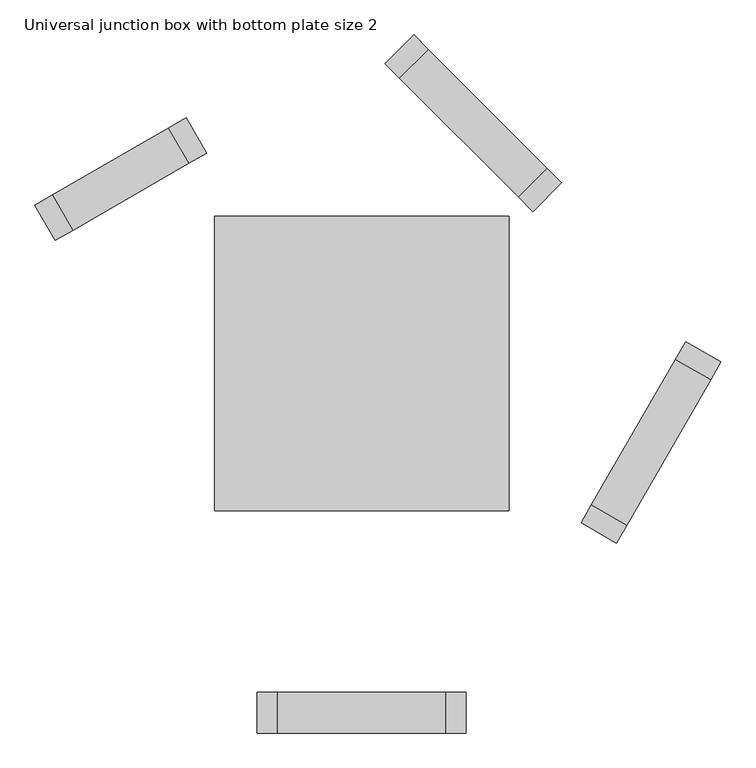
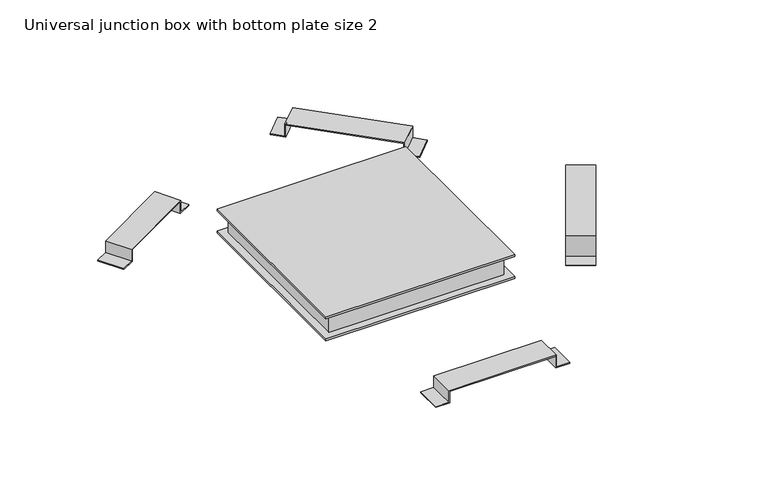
"""IFC4 building model written with IfcOpenShell, lengths in millimetres: cable carrier fitting geometry, Electrical-Installations_Hager_Universal-Junction-Box-With-Bottom-Plate-Size-2-Angled : Universal junction box with bottom plate size 2."""

import ifcopenshell
import ifcopenshell.guid

model = None  # the IFC model being written
_history = None  # IfcOwnerHistory: only IFC2X3 demands one
_inside = {}  # id of a spatial element -> (the spatial element, [elements in it])
_under = {}  # id of a project, library or spatial element -> (it, [spatial elements below it])
_declared = {}  # id of a project -> (the project, [libraries it declares])
_typed = {}  # id of a type object -> (the type object, [elements of that type])
_made_of = {}  # id of a material, layer set ... -> (it, [elements and type objects made of it])


def new_model(schema):
    """Start an empty IFC model of exactly this schema.

    Asked for "IFC4X3", IfcOpenShell would pick the latest addendum, in which some entities
    have other attributes; the version numbers below select the first issue.
    IFC2X3 requires an IfcOwnerHistory on every rooted entity: one is made here for all.
    """
    global model, _history
    if schema == "IFC4X3":
        model = ifcopenshell.file(schema_version=(4, 3, 0, 0))
    else:
        model = ifcopenshell.file(schema=schema)
    _inside.clear()
    _under.clear()
    _declared.clear()
    _typed.clear()
    _made_of.clear()
    _history = None
    if model.schema == "IFC2X3":
        org = make("IfcOrganization", Name="unknown")
        user = make(
            "IfcPersonAndOrganization",
            ThePerson=make("IfcPerson", FamilyName="unknown"),
            TheOrganization=org,
        )
        app = make(
            "IfcApplication",
            ApplicationDeveloper=org,
            Version="unknown",
            ApplicationFullName="unknown",
            ApplicationIdentifier="unknown",
        )
        _history = make(
            "IfcOwnerHistory",
            OwningUser=user,
            OwningApplication=app,
            ChangeAction="ADDED",
            CreationDate=0,
        )
    return model


def make(cls, **values):
    """One entity of the class cls with the attributes given. An attribute that is None is left unset."""
    return model.create_entity(
        cls, **{name: value for name, value in values.items() if value is not None}
    )


def rooted(cls, **values):
    """An entity with a GlobalId (a new one), such as an element, a storey or a relation."""
    return make(cls, GlobalId=ifcopenshell.guid.new(), OwnerHistory=_history, **values)


def si_unit(unit_type, name, prefix=None):
    """IfcSIUnit, for example si_unit("LENGTHUNIT", "METRE", prefix="MILLI")."""
    return make("IfcSIUnit", UnitType=unit_type, Prefix=prefix, Name=name)


def assignment(units):
    """IfcUnitAssignment: the units of a project."""
    return None if units is None else make("IfcUnitAssignment", Units=units)


def point(xyz):
    """IfcCartesianPoint."""
    return None if xyz is None else make("IfcCartesianPoint", Coordinates=xyz)


def direction(xyz):
    """IfcDirection."""
    return None if xyz is None else make("IfcDirection", DirectionRatios=xyz)


def frame(location, z_axis=None, x_axis=None):
    """IfcAxis2Placement3D, a coordinate frame: its origin and axes. An axis left out is left unset."""
    return make(
        "IfcAxis2Placement3D",
        Location=point(location),
        Axis=direction(z_axis),
        RefDirection=direction(x_axis),
    )


def origin():
    """The frame at (0, 0, 0) with its axes left unset."""
    return frame((0.0, 0.0, 0.0))


def place(relative_to, where):
    """IfcLocalPlacement: puts the frame where relative to a parent placement (None: the world)."""
    return make(
        "IfcLocalPlacement", PlacementRelTo=relative_to, RelativePlacement=where
    )


def context(
    kind, dimensions, precision=None, world=None, true_north=None, identifier=None
):
    """IfcGeometricRepresentationContext, for example the 3D "Model" context."""
    return make(
        "IfcGeometricRepresentationContext",
        ContextIdentifier=identifier,
        ContextType=kind,
        CoordinateSpaceDimension=dimensions,
        Precision=precision,
        WorldCoordinateSystem=world,
        TrueNorth=true_north,
    )


def project(units=None, contexts=None):
    """IfcProject with its units and contexts."""
    return rooted(
        "IfcProject",
        Name="project",
        RepresentationContexts=contexts,
        UnitsInContext=assignment(units),
    )


def spatial(cls, under=None, at=None, **own):
    """A site, building, storey or space (cls), placed at a placement, below another one or the project."""
    s = rooted(cls, ObjectPlacement=at, **own)
    if under is not None:
        _under.setdefault(under.id(), (under, []))[1].append(s)
    return s


def polyline(points):
    """IfcPolyline through the points."""
    return make("IfcPolyline", Points=[point(p) for p in points])


def outline(outer, holes=None, kind="AREA"):
    """IfcArbitraryClosedProfileDef: a profile drawn as a closed curve; with holes, ...WithVoids."""
    if holes is None:
        return make("IfcArbitraryClosedProfileDef", ProfileType=kind, OuterCurve=outer)
    return make(
        "IfcArbitraryProfileDefWithVoids",
        ProfileType=kind,
        OuterCurve=outer,
        InnerCurves=holes,
    )


def extrude(swept, where, along, depth):
    """IfcExtrudedAreaSolid: the profile swept, set in the frame where, extruded along a direction by depth."""
    return make(
        "IfcExtrudedAreaSolid",
        SweptArea=swept,
        Position=where,
        ExtrudedDirection=direction(along),
        Depth=depth,
    )


def faces_of(points, faces, orient=None, outer=None):
    """IfcFace entities. A face is a list of loops; a loop is a list of indices into points, from 0.

    orient and outer hold one flag for each loop. By default every Orientation is true, the
    first loop of a face is its IfcFaceOuterBound and the others are IfcFaceBound.
    """
    made = []
    for i, loops in enumerate(faces):
        bounds = []
        for j, loop in enumerate(loops):
            is_outer = j == 0 if outer is None else outer[i][j]
            bounds.append(
                make(
                    "IfcFaceOuterBound" if is_outer else "IfcFaceBound",
                    Bound=make("IfcPolyLoop", Polygon=[points[k] for k in loop]),
                    Orientation=True if orient is None else orient[i][j],
                )
            )
        made.append(make("IfcFace", Bounds=bounds))
    return made


def faceted_brep(points, faces, orient=None, outer=None, voids=None):
    """IfcFacetedBrep: a solid bounded by flat faces; with voids (closed shells), ...WithVoids."""
    shared = [point(p) for p in points]
    hull = make("IfcClosedShell", CfsFaces=faces_of(shared, faces, orient, outer))
    if voids is None:
        return make("IfcFacetedBrep", Outer=hull)
    return make(
        "IfcFacetedBrepWithVoids",
        Outer=hull,
        Voids=[
            make(cls, CfsFaces=faces_of(shared, fs, o, b)) for cls, fs, o, b in voids
        ],
    )


def shape(context_of_items, identifier, shape_type, items):
    """IfcShapeRepresentation: the items that make up one representation, for example the "Body"."""
    return make(
        "IfcShapeRepresentation",
        ContextOfItems=context_of_items,
        RepresentationIdentifier=identifier,
        RepresentationType=shape_type,
        Items=items,
    )


def source(mapping_origin, context_of_items, identifier, shape_type, items):
    """IfcRepresentationMap: a shape defined once, which mapped items show again and again."""
    return make(
        "IfcRepresentationMap",
        MappingOrigin=mapping_origin,
        MappedRepresentation=shape(context_of_items, identifier, shape_type, items),
    )


def transform(
    local_origin,
    x_axis=None,
    y_axis=None,
    z_axis=None,
    scale=None,
    scale2=None,
    scale3=None,
    uniform=True,
):
    """IfcCartesianTransformationOperator3D, or its non-uniform kind. x_axis, y_axis, z_axis: its Axis1, 2, 3."""
    if uniform:
        return make(
            "IfcCartesianTransformationOperator3D",
            Axis1=direction(x_axis),
            Axis2=direction(y_axis),
            LocalOrigin=point(local_origin),
            Scale=scale,
            Axis3=direction(z_axis),
        )
    return make(
        "IfcCartesianTransformationOperator3DnonUniform",
        Axis1=direction(x_axis),
        Axis2=direction(y_axis),
        LocalOrigin=point(local_origin),
        Scale=scale,
        Axis3=direction(z_axis),
        Scale2=scale2,
        Scale3=scale3,
    )


def mapped(mapping_source, mapping_target):
    """IfcMappedItem: shows the shape of a source again, moved by a transform."""
    return make(
        "IfcMappedItem", MappingSource=mapping_source, MappingTarget=mapping_target
    )


def made_of(thing, what):
    """Note that an element or type object is made of a material, layer set ...; save() writes the relation."""
    if what is not None:
        _made_of.setdefault(what.id(), (what, []))[1].append(thing)
    return thing


def element(
    cls,
    number,
    at=None,
    inside=None,
    cuts=None,
    type_object=None,
    material=None,
    context=None,
    identifier="Body",
    shape_type=None,
    held_by="IfcProductDefinitionShape",
    body=None,
    shapes=None,
    **own,
):
    """One element of the class cls, such as IfcWall. Its Tag is "e" and its number.

    at: its placement. inside: the storey or other place that contains it. cuts: it is an
    opening in that element (IfcRelVoidsElement). A single representation is given by context,
    identifier, shape_type and body (its items); several are given by shapes. held_by: the class
    of the entity that holds the representations. save() writes the other relations.
    """
    e = rooted(cls, Tag="e%d" % number, ObjectPlacement=at, **own)
    if body is not None:
        shapes = [shape(context, identifier, shape_type, body)]
    if shapes is not None:
        e.Representation = make(held_by, Representations=shapes)
    if inside is not None:
        _inside.setdefault(inside.id(), (inside, []))[1].append(e)
    if cuts is not None:
        rooted(
            "IfcRelVoidsElement", RelatingBuildingElement=cuts, RelatedOpeningElement=e
        )
    if type_object is not None:
        _typed.setdefault(type_object.id(), (type_object, []))[1].append(e)
    return made_of(e, material)


def aggregate(whole, parts):
    """IfcRelAggregates: a whole, such as a stair, and the parts it consists of."""
    return rooted("IfcRelAggregates", RelatingObject=whole, RelatedObjects=parts)


def save(model, path):
    """Write the relations noted so far, then the file.

    IfcRelAggregates (storeys below a building ...), IfcRelContainedInSpatialStructure (elements
    in a storey), IfcRelDefinesByType, IfcRelAssociatesMaterial and IfcRelDeclares: one each for
    every whole, place, type object, material and project.
    """
    for whole, parts in _under.values():
        aggregate(whole, parts)
    for where, things in _inside.values():
        rooted(
            "IfcRelContainedInSpatialStructure",
            RelatedElements=things,
            RelatingStructure=where,
        )
    for kind, things in _typed.values():
        rooted("IfcRelDefinesByType", RelatedObjects=things, RelatingType=kind)
    for what, things in _made_of.values():
        rooted("IfcRelAssociatesMaterial", RelatedObjects=things, RelatingMaterial=what)
    for by, libraries in _declared.values():
        rooted("IfcRelDeclares", RelatingContext=by, RelatedDefinitions=libraries)
    model.write(path)


def universal_junction_box_with_bottom_plate_size_2_cc3fe6d4(model_context):
    return source(origin(), model_context, "Body", "SolidModel", [
        extrude(outline(polyline([(0.0, 0.0), (32.0, 0.0), (32.0, -28.0), (272.0, -28.0), (272.0, 0.0), (304.0, 0.0), (304.0, -2.0), (273.9999999, -2.0), (273.9999999, -30.0), (29.9999999, -30.0), (29.9999999, -2.0), (0.0, -2.0), (0.0, 0.0)])), frame((34.2946789, 435.5394116, -14.0), z_axis=(0.7071067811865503, 0.7071067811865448, 0.0), x_axis=(0.7071067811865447, -0.7071067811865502, 0.0)), (0.0, 0.0, 1.0), 59.0),
        extrude(outline(polyline([(0.0, 0.0), (32.0, 0.0), (32.0, -28.0), (222.0000001, -28.0), (222.0000001, 0.0), (254.0, 0.0), (254.0, -2.0), (224.0, -2.0), (224.0, -30.0), (30.0, -30.0), (30.0, -2.0), (0.0, -2.0), (0.0, 0.0)])), frame((-445.6038291, 178.5541004, -14.0), z_axis=(-0.4999999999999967, 0.8660254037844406, 0.0), x_axis=(0.8660254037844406, 0.4999999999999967, 0.0)), (0.0, 0.0, 1.0), 59.0),
        extrude(outline(polyline([(-14.0, -152.0), (-14.0, -120.0), (14.0, -120.0), (14.0, 120.0), (-14.0, 120.0), (-14.0, 152.0), (-12.0, 152.0), (-12.0, 122.0), (16.0, 122.0), (16.0, -122.0), (-12.0, -122.0), (-12.0, -152.0), (-14.0, -152.0)])), frame((0.0, -537.5, 0.0), z_axis=(0.0, 1.0, 0.0), x_axis=(0.0, 0.0, 1.0)), (0.0, 0.0, 1.0), 59.0),
        extrude(outline(polyline([(0.0, 0.0), (32.0, 0.0), (32.0, -48.0), (272.0000001, -48.0), (272.0000001, 0.0), (304.0, 0.0), (304.0, -2.0), (274.0000001, -2.0), (274.0000001, -50.0), (30.0, -50.0), (30.0, -2.0), (0.0, -2.0), (0.0, 0.0)])), frame((370.6566407, -261.3858614, -24.0), z_axis=(-0.8660254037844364, 0.500000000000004, 0.0), x_axis=(0.500000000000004, 0.8660254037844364, 0.0)), (0.0, 0.0, 1.0), 59.0),
        faceted_brep([(-214.0, -214.0, 29.0), (214.0, -214.0, 29.0), (214.0, 214.0, 29.0), (-214.0, 214.0, 29.0), (-214.0, -214.0, 24.0), (-214.0, 214.0, 24.0), (214.0, 214.0, 24.0), (214.0, -214.0, 24.0), (192.0, 192.0, 24.0), (-192.0, 192.0, 24.0), (-192.0, -192.0, 24.0), (192.0, -192.0, 24.0), (192.0, 192.0, 24.7820613), (192.0, -192.0, 24.7820613), (-192.0, -192.0, 24.7820613), (-192.0, 192.0, 24.7820613)], [[[0, 1, 2, 3]], [[4, 5, 6, 7], [8, 9, 10, 11]], [[1, 0, 4, 7]], [[2, 1, 7, 6]], [[3, 2, 6, 5]], [[0, 3, 5, 4]], [[12, 13, 14, 15]], [[12, 15, 9, 8]], [[15, 14, 10, 9]], [[14, 13, 11, 10]], [[13, 12, 8, 11]]]),
        extrude(outline(polyline([(214.0, 214.0), (214.0, -214.0), (-214.0, -214.0), (-214.0, 214.0), (214.0, 214.0)])), frame((0.0, 0.0, -29.0), z_axis=(0.0, 0.0, 1.0), x_axis=(1.0, 0.0, 0.0)), (0.0, 0.0, 1.0), 5.0),
        faceted_brep([(-198.0, 198.0, 24.0), (-198.0, -198.0, 24.0), (198.0, -198.0, 24.0), (198.0, 198.0, 24.0), (-192.0, 192.0, 24.0), (192.0, 192.0, 24.0), (192.0, -192.0, 24.0), (-192.0, -192.0, 24.0), (-198.0, 198.0, -24.0), (198.0, 198.0, -24.0), (198.0, -198.0, -24.0), (-198.0, -198.0, -24.0), (192.0, 192.0, -16.1362798), (-192.0, 192.0, -16.1362798), (-192.0, -192.0, -16.1362798), (192.0, -192.0, -16.1362798)], [[[0, 1, 2, 3], [4, 5, 6, 7]], [[8, 9, 10, 11]], [[1, 0, 8, 11]], [[2, 1, 11, 10]], [[3, 2, 10, 9]], [[0, 3, 9, 8]], [[12, 13, 14, 15]], [[13, 12, 5, 4]], [[14, 13, 4, 7]], [[15, 14, 7, 6]], [[12, 15, 6, 5]]]),
    ])


if __name__ == "__main__":
    model = new_model("IFC4")
    model_context = context("Model", 3, world=origin())
    ifc_project = project(units=[si_unit("LENGTHUNIT", "METRE", prefix="MILLI")], contexts=[model_context])
    site = spatial("IfcSite", under=ifc_project)
    building = spatial("IfcBuilding", under=site)
    placement = place(None, origin())
    universal_junction_box_with_bottom_plate_size_2_shape = universal_junction_box_with_bottom_plate_size_2_cc3fe6d4(model_context)
    element("IfcCableCarrierFitting", 1, ObjectType="Electrical-Installations_Hager_Universal-Junction-Box-With-Bottom-Plate-Size-2-Angled : Universal junction box with bottom plate size 2", at=placement, inside=building, context=model_context, shape_type="MappedRepresentation", body=[
        mapped(universal_junction_box_with_bottom_plate_size_2_shape, transform((0.0, 0.0, 0.0), x_axis=(1.0, 0.0, 0.0), y_axis=(0.0, 1.0, 0.0), z_axis=(0.0, 0.0, 1.0))),
    ])
    save(model, "model.ifc")
